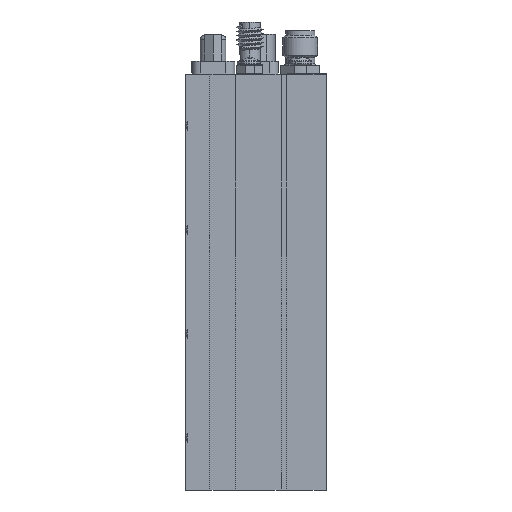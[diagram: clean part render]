
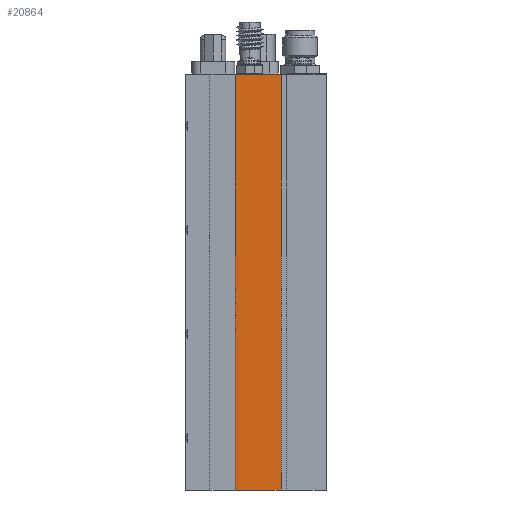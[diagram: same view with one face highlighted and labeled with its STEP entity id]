
A CAD part, left-side view. The second image highlights one B-rep face of the part: STEP entity #20864.
In plain terms, the highlighted planar face has unit normal (-1, 0, 0).
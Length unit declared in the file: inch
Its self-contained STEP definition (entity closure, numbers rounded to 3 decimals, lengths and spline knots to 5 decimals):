
#2153 = LINE ( 'NONE', #3349, #2162 ) ;
#2157 = LINE ( 'NONE', #3353, #2160 ) ;
#2160 = VECTOR ( 'NONE', #3355, 39.37008 ) ;
#2161 = LINE ( 'NONE', #3357, #2164 ) ;
#2162 = VECTOR ( 'NONE', #3356, 39.37008 ) ;
#2163 = LINE ( 'NONE', #3359, #2166 ) ;
#2164 = VECTOR ( 'NONE', #3358, 39.37008 ) ;
#2166 = VECTOR ( 'NONE', #3360, 39.37008 ) ;
#3349 = CARTESIAN_POINT ( 'NONE',  ( -1.24135, 0.35071, 1.73728 ) ) ;
#3353 = CARTESIAN_POINT ( 'NONE',  ( -1.24135, 0.02071, -1.26272 ) ) ;
#3355 = DIRECTION ( 'NONE',  ( 0., 0., 1. ) ) ;
#3356 = DIRECTION ( 'NONE',  ( 0., -1., 0. ) ) ;
#3357 = CARTESIAN_POINT ( 'NONE',  ( -1.24135, 0.35071, -1.26272 ) ) ;
#3358 = DIRECTION ( 'NONE',  ( 0., 0., 1. ) ) ;
#3359 = CARTESIAN_POINT ( 'NONE',  ( -1.24135, 0.35071, -1.26272 ) ) ;
#3360 = DIRECTION ( 'NONE',  ( 0., -1., 0. ) ) ;
#6529 = FACE_OUTER_BOUND ( 'NONE', #32954, .T. ) ;
#7452 = AXIS2_PLACEMENT_3D ( 'NONE', #8030, #8039, #8040 ) ;
#8030 = CARTESIAN_POINT ( 'NONE',  ( -1.24135, 0.35071, -1.26272 ) ) ;
#8037 = PLANE ( 'NONE',  #7452 ) ;
#8039 = DIRECTION ( 'NONE',  ( 1., 0., 0. ) ) ;
#8040 = DIRECTION ( 'NONE',  ( 0., 0., -1. ) ) ;
#10053 = CARTESIAN_POINT ( 'NONE',  ( -1.24135, 0.02071, 1.73728 ) ) ;
#10054 = CARTESIAN_POINT ( 'NONE',  ( -1.24135, 0.35071, -1.26272 ) ) ;
#10060 = CARTESIAN_POINT ( 'NONE',  ( -1.24135, 0.35071, 1.73728 ) ) ;
#10062 = CARTESIAN_POINT ( 'NONE',  ( -1.24135, 0.02071, -1.26272 ) ) ;
#16218 = ORIENTED_EDGE ( 'NONE', *, *, #19543, .T. ) ;
#16219 = ORIENTED_EDGE ( 'NONE', *, *, #19544, .F. ) ;
#16220 = ORIENTED_EDGE ( 'NONE', *, *, #19545, .F. ) ;
#16221 = ORIENTED_EDGE ( 'NONE', *, *, #19546, .T. ) ;
#19543 = EDGE_CURVE ( 'NONE', #22397, #22388, #2157, .T. ) ;
#19544 = EDGE_CURVE ( 'NONE', #22395, #22388, #2153, .T. ) ;
#19545 = EDGE_CURVE ( 'NONE', #22389, #22395, #2161, .T. ) ;
#19546 = EDGE_CURVE ( 'NONE', #22389, #22397, #2163, .T. ) ;
#20864 = ADVANCED_FACE ( 'NONE', ( #6529 ), #8037, .F. ) ;
#22388 = VERTEX_POINT ( 'NONE', #10053 ) ;
#22389 = VERTEX_POINT ( 'NONE', #10054 ) ;
#22395 = VERTEX_POINT ( 'NONE', #10060 ) ;
#22397 = VERTEX_POINT ( 'NONE', #10062 ) ;
#32954 = EDGE_LOOP ( 'NONE', ( #16218, #16219, #16220, #16221 ) ) ;
